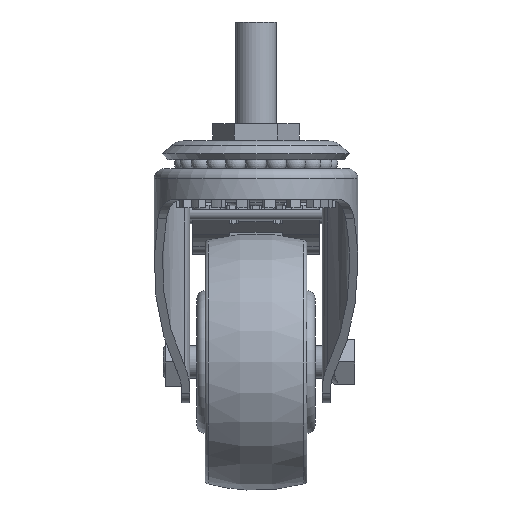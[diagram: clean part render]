
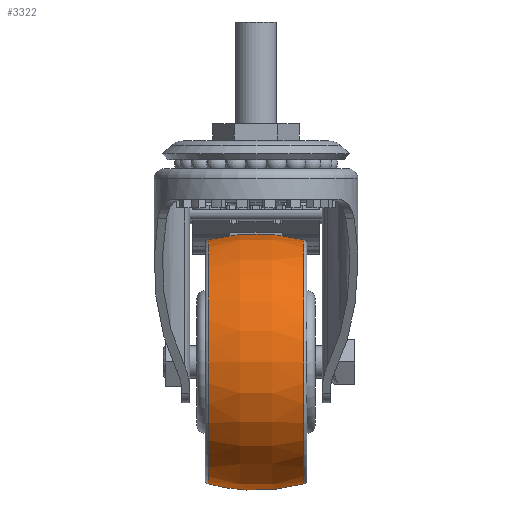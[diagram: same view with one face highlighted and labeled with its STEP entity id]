
A CAD part, left-side view. The second image highlights one B-rep face of the part: STEP entity #3322.
In plain terms, the highlighted free-form (B-spline) face has degree [3, 3] with [4, 7] control points.
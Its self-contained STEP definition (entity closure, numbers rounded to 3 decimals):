
#3317=(
BOUNDED_SURFACE()
B_SPLINE_SURFACE(3,3,((#18621,#18622,#18623,#18624,#18625,#18626,#18627),
(#18628,#18629,#18630,#18631,#18632,#18633,#18634),(#18635,#18636,#18637,
#18638,#18639,#18640,#18641),(#18642,#18643,#18644,#18645,#18646,#18647,
#18648)),.UNSPECIFIED.,.F.,.T.,.F.)
B_SPLINE_SURFACE_WITH_KNOTS((4,4),(1,3,3,3,1),(0.,1.),(-0.5,0.,0.5,1.,1.5),
 .UNSPECIFIED.)
GEOMETRIC_REPRESENTATION_ITEM()
RATIONAL_B_SPLINE_SURFACE(((1.,0.333,0.333,1.,0.333,
0.333,1.),(0.977,0.326,0.326,
0.977,0.326,0.326,0.977),
(0.977,0.326,0.326,0.977,
0.326,0.326,0.977),(1.,0.333,
0.333,1.,0.333,0.333,1.)))
REPRESENTATION_ITEM('')
SURFACE()
);
#3322=ADVANCED_FACE('',(#4483,#4484),#3317,.T.);
#4483=FACE_BOUND('',#4808,.T.);
#4484=FACE_BOUND('',#4809,.T.);
#4808=EDGE_LOOP('',(#5752));
#4809=EDGE_LOOP('',(#5753));
#5752=ORIENTED_EDGE('',*,*,#11117,.T.);
#5753=ORIENTED_EDGE('',*,*,#11118,.T.);
#9766=VERTEX_POINT('',#18618);
#9767=VERTEX_POINT('',#18620);
#11117=EDGE_CURVE('',#9766,#9766,#13124,.T.);
#11118=EDGE_CURVE('',#9767,#9767,#13125,.T.);
#13124=CIRCLE('',#13684,29.936);
#13125=CIRCLE('',#13685,29.936);
#13684=AXIS2_PLACEMENT_3D('',#18617,#15066,#15067);
#13685=AXIS2_PLACEMENT_3D('',#18619,#15068,#15069);
#15066=DIRECTION('',(0.,-1.,0.));
#15067=DIRECTION('',(0.,0.,-1.));
#15068=DIRECTION('',(0.,1.,0.));
#15069=DIRECTION('',(0.,0.,1.));
#18617=CARTESIAN_POINT('',(26.4,11.761,-83.5));
#18618=CARTESIAN_POINT('',(26.4,11.761,-113.436));
#18619=CARTESIAN_POINT('',(26.4,-11.761,-83.5));
#18620=CARTESIAN_POINT('',(26.4,-11.761,-53.564));
#18621=CARTESIAN_POINT('',(26.4,-11.761,-113.436));
#18622=CARTESIAN_POINT('',(86.272,-11.761,-113.436));
#18623=CARTESIAN_POINT('',(86.272,-11.761,-53.564));
#18624=CARTESIAN_POINT('',(26.4,-11.761,-53.564));
#18625=CARTESIAN_POINT('',(-33.472,-11.761,-53.564));
#18626=CARTESIAN_POINT('',(-33.472,-11.761,-113.436));
#18627=CARTESIAN_POINT('',(26.4,-11.761,-113.436));
#18628=CARTESIAN_POINT('',(26.4,-4.013,-115.534));
#18629=CARTESIAN_POINT('',(90.468,-4.013,-115.534));
#18630=CARTESIAN_POINT('',(90.468,-4.013,-51.466));
#18631=CARTESIAN_POINT('',(26.4,-4.013,-51.466));
#18632=CARTESIAN_POINT('',(-37.668,-4.013,-51.466));
#18633=CARTESIAN_POINT('',(-37.668,-4.013,-115.534));
#18634=CARTESIAN_POINT('',(26.4,-4.013,-115.534));
#18635=CARTESIAN_POINT('',(26.4,4.013,-115.534));
#18636=CARTESIAN_POINT('',(90.468,4.013,-115.534));
#18637=CARTESIAN_POINT('',(90.468,4.013,-51.466));
#18638=CARTESIAN_POINT('',(26.4,4.013,-51.466));
#18639=CARTESIAN_POINT('',(-37.668,4.013,-51.466));
#18640=CARTESIAN_POINT('',(-37.668,4.013,-115.534));
#18641=CARTESIAN_POINT('',(26.4,4.013,-115.534));
#18642=CARTESIAN_POINT('',(26.4,11.761,-113.436));
#18643=CARTESIAN_POINT('',(86.272,11.761,-113.436));
#18644=CARTESIAN_POINT('',(86.272,11.761,-53.564));
#18645=CARTESIAN_POINT('',(26.4,11.761,-53.564));
#18646=CARTESIAN_POINT('',(-33.472,11.761,-53.564));
#18647=CARTESIAN_POINT('',(-33.472,11.761,-113.436));
#18648=CARTESIAN_POINT('',(26.4,11.761,-113.436));
